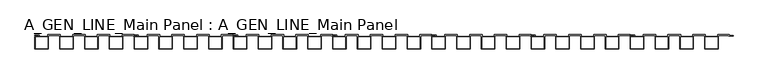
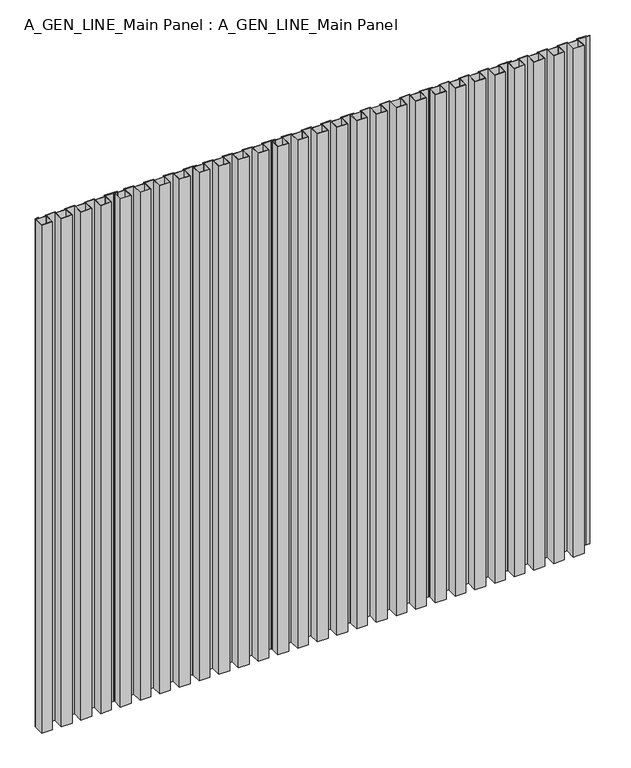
"""IFC4 building model written with IfcOpenShell, lengths in millimetres: proxy geometry, A_GEN_LINE_Main Panel : A_GEN_LINE_Main Panel."""

import ifcopenshell
import ifcopenshell.guid

model = None  # the IFC model being written
_history = None  # IfcOwnerHistory: only IFC2X3 demands one
_inside = {}  # id of a spatial element -> (the spatial element, [elements in it])
_under = {}  # id of a project, library or spatial element -> (it, [spatial elements below it])
_declared = {}  # id of a project -> (the project, [libraries it declares])
_typed = {}  # id of a type object -> (the type object, [elements of that type])
_made_of = {}  # id of a material, layer set ... -> (it, [elements and type objects made of it])


def new_model(schema):
    """Start an empty IFC model of exactly this schema.

    Asked for "IFC4X3", IfcOpenShell would pick the latest addendum, in which some entities
    have other attributes; the version numbers below select the first issue.
    IFC2X3 requires an IfcOwnerHistory on every rooted entity: one is made here for all.
    """
    global model, _history
    if schema == "IFC4X3":
        model = ifcopenshell.file(schema_version=(4, 3, 0, 0))
    else:
        model = ifcopenshell.file(schema=schema)
    _inside.clear()
    _under.clear()
    _declared.clear()
    _typed.clear()
    _made_of.clear()
    _history = None
    if model.schema == "IFC2X3":
        org = make("IfcOrganization", Name="unknown")
        user = make(
            "IfcPersonAndOrganization",
            ThePerson=make("IfcPerson", FamilyName="unknown"),
            TheOrganization=org,
        )
        app = make(
            "IfcApplication",
            ApplicationDeveloper=org,
            Version="unknown",
            ApplicationFullName="unknown",
            ApplicationIdentifier="unknown",
        )
        _history = make(
            "IfcOwnerHistory",
            OwningUser=user,
            OwningApplication=app,
            ChangeAction="ADDED",
            CreationDate=0,
        )
    return model


def make(cls, **values):
    """One entity of the class cls with the attributes given. An attribute that is None is left unset."""
    return model.create_entity(
        cls, **{name: value for name, value in values.items() if value is not None}
    )


def rooted(cls, **values):
    """An entity with a GlobalId (a new one), such as an element, a storey or a relation."""
    return make(cls, GlobalId=ifcopenshell.guid.new(), OwnerHistory=_history, **values)


def si_unit(unit_type, name, prefix=None):
    """IfcSIUnit, for example si_unit("LENGTHUNIT", "METRE", prefix="MILLI")."""
    return make("IfcSIUnit", UnitType=unit_type, Prefix=prefix, Name=name)


def assignment(units):
    """IfcUnitAssignment: the units of a project."""
    return None if units is None else make("IfcUnitAssignment", Units=units)


def point(xyz):
    """IfcCartesianPoint."""
    return None if xyz is None else make("IfcCartesianPoint", Coordinates=xyz)


def direction(xyz):
    """IfcDirection."""
    return None if xyz is None else make("IfcDirection", DirectionRatios=xyz)


def frame(location, z_axis=None, x_axis=None):
    """IfcAxis2Placement3D, a coordinate frame: its origin and axes. An axis left out is left unset."""
    return make(
        "IfcAxis2Placement3D",
        Location=point(location),
        Axis=direction(z_axis),
        RefDirection=direction(x_axis),
    )


def frame_2d(location, x_axis=None):
    """IfcAxis2Placement2D, a coordinate frame in the plane: its origin and x axis."""
    return make(
        "IfcAxis2Placement2D", Location=point(location), RefDirection=direction(x_axis)
    )


def origin():
    """The frame at (0, 0, 0) with its axes left unset."""
    return frame((0.0, 0.0, 0.0))


def origin_with_axes():
    """The frame at (0, 0, 0) with the z axis (0, 0, 1) and the x axis (1, 0, 0) written out."""
    return frame((0.0, 0.0, 0.0), z_axis=(0.0, 0.0, 1.0), x_axis=(1.0, 0.0, 0.0))


def place(relative_to, where):
    """IfcLocalPlacement: puts the frame where relative to a parent placement (None: the world)."""
    return make(
        "IfcLocalPlacement", PlacementRelTo=relative_to, RelativePlacement=where
    )


def context(
    kind, dimensions, precision=None, world=None, true_north=None, identifier=None
):
    """IfcGeometricRepresentationContext, for example the 3D "Model" context."""
    return make(
        "IfcGeometricRepresentationContext",
        ContextIdentifier=identifier,
        ContextType=kind,
        CoordinateSpaceDimension=dimensions,
        Precision=precision,
        WorldCoordinateSystem=world,
        TrueNorth=true_north,
    )


def project(units=None, contexts=None):
    """IfcProject with its units and contexts."""
    return rooted(
        "IfcProject",
        Name="project",
        RepresentationContexts=contexts,
        UnitsInContext=assignment(units),
    )


def spatial(cls, under=None, at=None, **own):
    """A site, building, storey or space (cls), placed at a placement, below another one or the project."""
    s = rooted(cls, ObjectPlacement=at, **own)
    if under is not None:
        _under.setdefault(under.id(), (under, []))[1].append(s)
    return s


def polyline(points):
    """IfcPolyline through the points."""
    return make("IfcPolyline", Points=[point(p) for p in points])


def circle_curve(where, radius):
    """IfcCircle in the frame where."""
    return make("IfcCircle", Position=where, Radius=radius)


def trimmed(basis, trim1, trim2, sense, master):
    """IfcTrimmedCurve: the piece of a basis curve between two trims."""
    return make(
        "IfcTrimmedCurve",
        BasisCurve=basis,
        Trim1=trim1,
        Trim2=trim2,
        SenseAgreement=sense,
        MasterRepresentation=master,
    )


def segment(curve, same_sense, transition):
    """IfcCompositeCurveSegment."""
    return make(
        "IfcCompositeCurveSegment",
        Transition=transition,
        SameSense=same_sense,
        ParentCurve=curve,
    )


def composite_curve(segments, self_intersect=None):
    """IfcCompositeCurve: segments joined end to end."""
    return make("IfcCompositeCurve", Segments=segments, SelfIntersect=self_intersect)


def outline(outer, holes=None, kind="AREA"):
    """IfcArbitraryClosedProfileDef: a profile drawn as a closed curve; with holes, ...WithVoids."""
    if holes is None:
        return make("IfcArbitraryClosedProfileDef", ProfileType=kind, OuterCurve=outer)
    return make(
        "IfcArbitraryProfileDefWithVoids",
        ProfileType=kind,
        OuterCurve=outer,
        InnerCurves=holes,
    )


def extrude(swept, where, along, depth):
    """IfcExtrudedAreaSolid: the profile swept, set in the frame where, extruded along a direction by depth."""
    return make(
        "IfcExtrudedAreaSolid",
        SweptArea=swept,
        Position=where,
        ExtrudedDirection=direction(along),
        Depth=depth,
    )


def shape(context_of_items, identifier, shape_type, items):
    """IfcShapeRepresentation: the items that make up one representation, for example the "Body"."""
    return make(
        "IfcShapeRepresentation",
        ContextOfItems=context_of_items,
        RepresentationIdentifier=identifier,
        RepresentationType=shape_type,
        Items=items,
    )


def source(mapping_origin, context_of_items, identifier, shape_type, items):
    """IfcRepresentationMap: a shape defined once, which mapped items show again and again."""
    return make(
        "IfcRepresentationMap",
        MappingOrigin=mapping_origin,
        MappedRepresentation=shape(context_of_items, identifier, shape_type, items),
    )


def transform(
    local_origin,
    x_axis=None,
    y_axis=None,
    z_axis=None,
    scale=None,
    scale2=None,
    scale3=None,
    uniform=True,
):
    """IfcCartesianTransformationOperator3D, or its non-uniform kind. x_axis, y_axis, z_axis: its Axis1, 2, 3."""
    if uniform:
        return make(
            "IfcCartesianTransformationOperator3D",
            Axis1=direction(x_axis),
            Axis2=direction(y_axis),
            LocalOrigin=point(local_origin),
            Scale=scale,
            Axis3=direction(z_axis),
        )
    return make(
        "IfcCartesianTransformationOperator3DnonUniform",
        Axis1=direction(x_axis),
        Axis2=direction(y_axis),
        LocalOrigin=point(local_origin),
        Scale=scale,
        Axis3=direction(z_axis),
        Scale2=scale2,
        Scale3=scale3,
    )


def mapped(mapping_source, mapping_target):
    """IfcMappedItem: shows the shape of a source again, moved by a transform."""
    return make(
        "IfcMappedItem", MappingSource=mapping_source, MappingTarget=mapping_target
    )


def made_of(thing, what):
    """Note that an element or type object is made of a material, layer set ...; save() writes the relation."""
    if what is not None:
        _made_of.setdefault(what.id(), (what, []))[1].append(thing)
    return thing


def element(
    cls,
    number,
    at=None,
    inside=None,
    cuts=None,
    type_object=None,
    material=None,
    context=None,
    identifier="Body",
    shape_type=None,
    held_by="IfcProductDefinitionShape",
    body=None,
    shapes=None,
    **own,
):
    """One element of the class cls, such as IfcWall. Its Tag is "e" and its number.

    at: its placement. inside: the storey or other place that contains it. cuts: it is an
    opening in that element (IfcRelVoidsElement). A single representation is given by context,
    identifier, shape_type and body (its items); several are given by shapes. held_by: the class
    of the entity that holds the representations. save() writes the other relations.
    """
    e = rooted(cls, Tag="e%d" % number, ObjectPlacement=at, **own)
    if body is not None:
        shapes = [shape(context, identifier, shape_type, body)]
    if shapes is not None:
        e.Representation = make(held_by, Representations=shapes)
    if inside is not None:
        _inside.setdefault(inside.id(), (inside, []))[1].append(e)
    if cuts is not None:
        rooted(
            "IfcRelVoidsElement", RelatingBuildingElement=cuts, RelatedOpeningElement=e
        )
    if type_object is not None:
        _typed.setdefault(type_object.id(), (type_object, []))[1].append(e)
    return made_of(e, material)


def aggregate(whole, parts):
    """IfcRelAggregates: a whole, such as a stair, and the parts it consists of."""
    return rooted("IfcRelAggregates", RelatingObject=whole, RelatedObjects=parts)


def save(model, path):
    """Write the relations noted so far, then the file.

    IfcRelAggregates (storeys below a building ...), IfcRelContainedInSpatialStructure (elements
    in a storey), IfcRelDefinesByType, IfcRelAssociatesMaterial and IfcRelDeclares: one each for
    every whole, place, type object, material and project.
    """
    for whole, parts in _under.values():
        aggregate(whole, parts)
    for where, things in _inside.values():
        rooted(
            "IfcRelContainedInSpatialStructure",
            RelatedElements=things,
            RelatingStructure=where,
        )
    for kind, things in _typed.values():
        rooted("IfcRelDefinesByType", RelatedObjects=things, RelatingType=kind)
    for what, things in _made_of.values():
        rooted("IfcRelAssociatesMaterial", RelatedObjects=things, RelatingMaterial=what)
    for by, libraries in _declared.values():
        rooted("IfcRelDeclares", RelatingContext=by, RelatedDefinitions=libraries)
    model.write(path)


def a_gen_line_main_panel_a_gen_line_main_panel_f6c80559(model_context):
    return source(origin(), model_context, "Body", "SweptSolid", [
        extrude(outline(composite_curve([segment(polyline([(1319.9924785, -32.2007666), (1319.9924785, -4.3989007)]), True, "CONTINUOUS"), segment(trimmed(circle_curve(frame_2d((1320.4913792, -4.3989007)), 0.4989007), [point((1319.9924785, -4.3989007))], [point((1320.4913792, -3.9))], False, "CARTESIAN"), True, "CONTINUOUS"), segment(polyline([(1320.4913792, -3.9), (1328.3818862, -3.9), (1328.3818862, -1.7), (1319.9623336, -1.7), (1319.9623336, -0.6), (1329.5818862, -0.6), (1329.5818862, -4.1), (1348.5924785, -4.1), (1348.5924785, 0.0), (1376.3894211, 0.0), (1376.3894211, -4.1), (1403.5894211, -4.1), (1403.5894211, 0.0), (1431.3863637, 0.0), (1431.3863637, -4.1), (1458.5863637, -4.1), (1458.5863637, 0.0), (1486.3833063, 0.0), (1486.3833063, -4.1), (1513.5833063, -4.1), (1513.5833063, 0.0), (1539.9560559, 0.0), (1539.9560559, -1.85), (1547.9535496, -1.85), (1547.9535496, -3.2), (1538.4377008, -3.2), (1538.4377008, -2.4), (1514.9833063, -2.4), (1514.9833063, -32.2007666), (1484.9833063, -32.2007666), (1484.9833063, -1.85), (1459.9863637, -1.85), (1459.9863637, -32.2007666), (1429.9411907, -32.2007666), (1429.9411907, -1.85), (1404.9894211, -1.85), (1404.9894211, -32.2007666), (1374.9894211, -32.2007666), (1374.9894211, -1.85), (1349.9924785, -1.85), (1349.9924785, -32.2007666), (1319.9924785, -32.2007666)]), True, "CONTINUOUS")], self_intersect=False), holes=[polyline([(1348.5924785, -5.1), (1321.3924785, -5.1), (1321.3924785, -30.8007666), (1348.5924785, -30.8007666), (1348.5924785, -5.1)]), polyline([(1376.3894211, -30.8007666), (1403.5894211, -30.8007666), (1403.5894211, -5.1), (1376.3894211, -5.1), (1376.3894211, -30.8007666)]), polyline([(1431.3863637, -30.8007666), (1458.5863637, -30.8007666), (1458.5863637, -5.1), (1431.3863637, -5.1), (1431.3863637, -30.8007666)]), polyline([(1486.3833063, -5.1), (1486.3833063, -30.8007666), (1513.5833063, -30.8007666), (1513.5833063, -5.1), (1486.3833063, -5.1)])]), origin_with_axes(), (0.0, 0.0, 1.0), 1500.0),
        extrude(outline(composite_curve([segment(polyline([(1099.9987562, -32.2007666), (1099.9987562, -4.3989007)]), True, "CONTINUOUS"), segment(trimmed(circle_curve(frame_2d((1100.4976569, -4.3989007)), 0.4989007), [point((1099.9987562, -4.3989007))], [point((1100.4976569, -3.9))], False, "CARTESIAN"), True, "CONTINUOUS"), segment(polyline([(1100.4976569, -3.9), (1108.388164, -3.9), (1108.388164, -1.7), (1099.9686113, -1.7), (1099.9686113, -0.6), (1109.588164, -0.6), (1109.588164, -4.1), (1128.5987562, -4.1), (1128.5987562, 0.0), (1156.3956988, 0.0), (1156.3956988, -4.1), (1183.5956988, -4.1), (1183.5956988, 0.0), (1211.3926414, 0.0), (1211.3926414, -4.1), (1238.5926414, -4.1), (1238.5926414, 0.0), (1266.3895841, 0.0), (1266.3895841, -4.1), (1293.5895841, -4.1), (1293.5895841, 0.0), (1319.9623336, 0.0), (1319.9623336, -1.85), (1327.9598273, -1.85), (1327.9598273, -3.2), (1318.4439785, -3.2), (1318.4439785, -2.4), (1294.9895841, -2.4), (1294.9895841, -32.2007666), (1264.9895841, -32.2007666), (1264.9895841, -1.85), (1239.9926414, -1.85), (1239.9926414, -32.2007666), (1209.9474684, -32.2007666), (1209.9474684, -1.85), (1184.9956988, -1.85), (1184.9956988, -32.2007666), (1154.9956988, -32.2007666), (1154.9956988, -1.85), (1129.9987562, -1.85), (1129.9987562, -32.2007666), (1099.9987562, -32.2007666)]), True, "CONTINUOUS")], self_intersect=False), holes=[polyline([(1128.5987562, -5.1), (1101.3987562, -5.1), (1101.3987562, -30.8007666), (1128.5987562, -30.8007666), (1128.5987562, -5.1)]), polyline([(1156.3956988, -30.8007666), (1183.5956988, -30.8007666), (1183.5956988, -5.1), (1156.3956988, -5.1), (1156.3956988, -30.8007666)]), polyline([(1211.3926414, -30.8007666), (1238.5926414, -30.8007666), (1238.5926414, -5.1), (1211.3926414, -5.1), (1211.3926414, -30.8007666)]), polyline([(1266.3895841, -5.1), (1266.3895841, -30.8007666), (1293.5895841, -30.8007666), (1293.5895841, -5.1), (1266.3895841, -5.1)])]), origin_with_axes(), (0.0, 0.0, 1.0), 1500.0),
        extrude(outline(composite_curve([segment(polyline([(880.0050339, -32.2007666), (880.0050339, -4.3989007)]), True, "CONTINUOUS"), segment(trimmed(circle_curve(frame_2d((880.5039347, -4.3989007)), 0.4989007), [point((880.0050339, -4.3989007))], [point((880.5039347, -3.9))], False, "CARTESIAN"), True, "CONTINUOUS"), segment(polyline([(880.5039347, -3.9), (888.3944417, -3.9), (888.3944417, -1.7), (879.9748891, -1.7), (879.9748891, -0.6), (889.5944417, -0.6), (889.5944417, -4.1), (908.6050339, -4.1), (908.6050339, 0.0), (936.4019766, 0.0), (936.4019766, -4.1), (963.6019766, -4.1), (963.6019766, 0.0), (991.3989192, 0.0), (991.3989192, -4.1), (1018.5989192, -4.1), (1018.5989192, 0.0), (1046.3958618, 0.0), (1046.3958618, -4.1), (1073.5958618, -4.1), (1073.5958618, 0.0), (1099.9686113, 0.0), (1099.9686113, -1.85), (1107.966105, -1.85), (1107.966105, -3.2), (1098.4502563, -3.2), (1098.4502563, -2.4), (1074.9958618, -2.4), (1074.9958618, -32.2007666), (1044.9958618, -32.2007666), (1044.9958618, -1.85), (1019.9989192, -1.85), (1019.9989192, -32.2007666), (989.9537462, -32.2007666), (989.9537462, -1.85), (965.0019766, -1.85), (965.0019766, -32.2007666), (935.0019766, -32.2007666), (935.0019766, -1.85), (910.0050339, -1.85), (910.0050339, -32.2007666), (880.0050339, -32.2007666)]), True, "CONTINUOUS")], self_intersect=False), holes=[polyline([(908.6050339, -5.1), (881.4050339, -5.1), (881.4050339, -30.8007666), (908.6050339, -30.8007666), (908.6050339, -5.1)]), polyline([(936.4019766, -30.8007666), (963.6019766, -30.8007666), (963.6019766, -5.1), (936.4019766, -5.1), (936.4019766, -30.8007666)]), polyline([(991.3989192, -30.8007666), (1018.5989192, -30.8007666), (1018.5989192, -5.1), (991.3989192, -5.1), (991.3989192, -30.8007666)]), polyline([(1046.3958618, -5.1), (1046.3958618, -30.8007666), (1073.5958618, -30.8007666), (1073.5958618, -5.1), (1046.3958618, -5.1)])]), origin_with_axes(), (0.0, 0.0, 1.0), 1500.0),
        extrude(outline(composite_curve([segment(polyline([(660.0113117, -32.2007666), (660.0113117, -4.3989007)]), True, "CONTINUOUS"), segment(trimmed(circle_curve(frame_2d((660.5102124, -4.3989007)), 0.4989007), [point((660.0113117, -4.3989007))], [point((660.5102124, -3.9))], False, "CARTESIAN"), True, "CONTINUOUS"), segment(polyline([(660.5102124, -3.9), (668.4007195, -3.9), (668.4007195, -1.7), (659.9811668, -1.7), (659.9811668, -0.6), (669.6007195, -0.6), (669.6007195, -4.1), (688.6113117, -4.1), (688.6113117, 0.0), (716.4082543, 0.0), (716.4082543, -4.1), (743.6082543, -4.1), (743.6082543, 0.0), (771.4051969, 0.0), (771.4051969, -4.1), (798.6051969, -4.1), (798.6051969, 0.0), (826.4021395, 0.0), (826.4021395, -4.1), (853.6021395, -4.1), (853.6021395, 0.0), (879.9748891, 0.0), (879.9748891, -1.85), (887.9723828, -1.85), (887.9723828, -3.2), (878.456534, -3.2), (878.456534, -2.4), (855.0021395, -2.4), (855.0021395, -32.2007666), (825.0021395, -32.2007666), (825.0021395, -1.85), (800.0051969, -1.85), (800.0051969, -32.2007666), (769.9600239, -32.2007666), (769.9600239, -1.85), (745.0082543, -1.85), (745.0082543, -32.2007666), (715.0082543, -32.2007666), (715.0082543, -1.85), (690.0113117, -1.85), (690.0113117, -32.2007666), (660.0113117, -32.2007666)]), True, "CONTINUOUS")], self_intersect=False), holes=[polyline([(688.6113117, -5.1), (661.4113117, -5.1), (661.4113117, -30.8007666), (688.6113117, -30.8007666), (688.6113117, -5.1)]), polyline([(716.4082543, -30.8007666), (743.6082543, -30.8007666), (743.6082543, -5.1), (716.4082543, -5.1), (716.4082543, -30.8007666)]), polyline([(771.4051969, -30.8007666), (798.6051969, -30.8007666), (798.6051969, -5.1), (771.4051969, -5.1), (771.4051969, -30.8007666)]), polyline([(826.4021395, -5.1), (826.4021395, -30.8007666), (853.6021395, -30.8007666), (853.6021395, -5.1), (826.4021395, -5.1)])]), origin_with_axes(), (0.0, 0.0, 1.0), 1500.0),
        extrude(outline(composite_curve([segment(polyline([(440.0175894, -32.2007666), (440.0175894, -4.3989007)]), True, "CONTINUOUS"), segment(trimmed(circle_curve(frame_2d((440.5164901, -4.3989007)), 0.4989007), [point((440.0175894, -4.3989007))], [point((440.5164901, -3.9))], False, "CARTESIAN"), True, "CONTINUOUS"), segment(polyline([(440.5164901, -3.9), (448.4069972, -3.9), (448.4069972, -1.7), (439.9874445, -1.7), (439.9874445, -0.6), (449.6069972, -0.6), (449.6069972, -4.1), (468.6175894, -4.1), (468.6175894, 0.0), (496.414532, 0.0), (496.414532, -4.1), (523.614532, -4.1), (523.614532, 0.0), (551.4114746, 0.0), (551.4114746, -4.1), (578.6114746, -4.1), (578.6114746, 0.0), (606.4084173, 0.0), (606.4084173, -4.1), (633.6084173, -4.1), (633.6084173, 0.0), (659.9811668, 0.0), (659.9811668, -1.85), (667.9786605, -1.85), (667.9786605, -3.2), (658.4628117, -3.2), (658.4628117, -2.4), (635.0084173, -2.4), (635.0084173, -32.2007666), (605.0084173, -32.2007666), (605.0084173, -1.85), (580.0114746, -1.85), (580.0114746, -32.2007666), (549.9663016, -32.2007666), (549.9663016, -1.85), (525.014532, -1.85), (525.014532, -32.2007666), (495.014532, -32.2007666), (495.014532, -1.85), (470.0175894, -1.85), (470.0175894, -32.2007666), (440.0175894, -32.2007666)]), True, "CONTINUOUS")], self_intersect=False), holes=[polyline([(468.6175894, -5.1), (441.4175894, -5.1), (441.4175894, -30.8007666), (468.6175894, -30.8007666), (468.6175894, -5.1)]), polyline([(496.414532, -30.8007666), (523.614532, -30.8007666), (523.614532, -5.1), (496.414532, -5.1), (496.414532, -30.8007666)]), polyline([(551.4114746, -30.8007666), (578.6114746, -30.8007666), (578.6114746, -5.1), (551.4114746, -5.1), (551.4114746, -30.8007666)]), polyline([(606.4084173, -5.1), (606.4084173, -30.8007666), (633.6084173, -30.8007666), (633.6084173, -5.1), (606.4084173, -5.1)])]), origin_with_axes(), (0.0, 0.0, 1.0), 1500.0),
        extrude(outline(composite_curve([segment(polyline([(220.0238671, -32.2007666), (220.0238671, -4.3989007)]), True, "CONTINUOUS"), segment(trimmed(circle_curve(frame_2d((220.5227679, -4.3989007)), 0.4989007), [point((220.0238671, -4.3989007))], [point((220.5227679, -3.9))], False, "CARTESIAN"), True, "CONTINUOUS"), segment(polyline([(220.5227679, -3.9), (228.4132749, -3.9), (228.4132749, -1.7), (219.9937223, -1.7), (219.9937223, -0.6), (229.6132749, -0.6), (229.6132749, -4.1), (248.6238671, -4.1), (248.6238671, 0.0), (276.4208098, 0.0), (276.4208098, -4.1), (303.6208098, -4.1), (303.6208098, 0.0), (331.4177524, 0.0), (331.4177524, -4.1), (358.6177524, -4.1), (358.6177524, 0.0), (386.414695, 0.0), (386.414695, -4.1), (413.614695, -4.1), (413.614695, 0.0), (439.9874445, 0.0), (439.9874445, -1.85), (447.9849382, -1.85), (447.9849382, -3.2), (438.4690895, -3.2), (438.4690895, -2.4), (415.014695, -2.4), (415.014695, -32.2007666), (385.014695, -32.2007666), (385.014695, -1.85), (360.0177524, -1.85), (360.0177524, -32.2007666), (329.9725794, -32.2007666), (329.9725794, -1.85), (305.0208098, -1.85), (305.0208098, -32.2007666), (275.0208098, -32.2007666), (275.0208098, -1.85), (250.0238671, -1.85), (250.0238671, -32.2007666), (220.0238671, -32.2007666)]), True, "CONTINUOUS")], self_intersect=False), holes=[polyline([(248.6238671, -5.1), (221.4238671, -5.1), (221.4238671, -30.8007666), (248.6238671, -30.8007666), (248.6238671, -5.1)]), polyline([(276.4208098, -30.8007666), (303.6208098, -30.8007666), (303.6208098, -5.1), (276.4208098, -5.1), (276.4208098, -30.8007666)]), polyline([(331.4177524, -30.8007666), (358.6177524, -30.8007666), (358.6177524, -5.1), (331.4177524, -5.1), (331.4177524, -30.8007666)]), polyline([(386.414695, -5.1), (386.414695, -30.8007666), (413.614695, -30.8007666), (413.614695, -5.1), (386.414695, -5.1)])]), origin_with_axes(), (0.0, 0.0, 1.0), 1500.0),
        extrude(outline(composite_curve([segment(polyline([(0.0301449, -32.2007666), (0.0301449, -4.3989007)]), True, "CONTINUOUS"), segment(trimmed(circle_curve(frame_2d((0.5290456, -4.3989007)), 0.4989007), [point((0.0301449, -4.3989007))], [point((0.5290456, -3.9))], False, "CARTESIAN"), True, "CONTINUOUS"), segment(polyline([(0.5290456, -3.9), (8.4195527, -3.9), (8.4195527, -1.7), (0.0, -1.7), (0.0, -0.6), (9.6195527, -0.6), (9.6195527, -4.1), (28.6301449, -4.1), (28.6301449, 0.0), (56.4270875, 0.0), (56.4270875, -4.1), (83.6270875, -4.1), (83.6270875, 0.0), (111.4240301, 0.0), (111.4240301, -4.1), (138.6240301, -4.1), (138.6240301, 0.0), (166.4209727, 0.0), (166.4209727, -4.1), (193.6209727, -4.1), (193.6209727, 0.0), (219.9937223, 0.0), (219.9937223, -1.85), (227.991216, -1.85), (227.991216, -3.2), (218.4753672, -3.2), (218.4753672, -2.4), (195.0209727, -2.4), (195.0209727, -32.2007666), (165.0209727, -32.2007666), (165.0209727, -1.85), (140.0240301, -1.85), (140.0240301, -32.2007666), (109.9788571, -32.2007666), (109.9788571, -1.85), (85.0270875, -1.85), (85.0270875, -32.2007666), (55.0270875, -32.2007666), (55.0270875, -1.85), (30.0301449, -1.85), (30.0301449, -32.2007666), (0.0301449, -32.2007666)]), True, "CONTINUOUS")], self_intersect=False), holes=[polyline([(28.6301449, -5.1), (1.4301449, -5.1), (1.4301449, -30.8007666), (28.6301449, -30.8007666), (28.6301449, -5.1)]), polyline([(56.4270875, -30.8007666), (83.6270875, -30.8007666), (83.6270875, -5.1), (56.4270875, -5.1), (56.4270875, -30.8007666)]), polyline([(111.4240301, -30.8007666), (138.6240301, -30.8007666), (138.6240301, -5.1), (111.4240301, -5.1), (111.4240301, -30.8007666)]), polyline([(166.4209727, -5.1), (166.4209727, -30.8007666), (193.6209727, -30.8007666), (193.6209727, -5.1), (166.4209727, -5.1)])]), origin_with_axes(), (0.0, 0.0, 1.0), 1500.0),
    ])


if __name__ == "__main__":
    model = new_model("IFC4")
    model_context = context("Model", 3, world=origin())
    ifc_project = project(units=[si_unit("LENGTHUNIT", "METRE", prefix="MILLI")], contexts=[model_context])
    site = spatial("IfcSite", under=ifc_project)
    building = spatial("IfcBuilding", under=site)
    placement = place(None, origin())
    a_gen_line_main_panel_a_gen_line_main_panel_shape = a_gen_line_main_panel_a_gen_line_main_panel_f6c80559(model_context)
    element("IfcBuildingElementProxy", 1, Name="A_GEN_LINE_Main Panel : A_GEN_LINE_Main Panel", ObjectType="A_GEN_LINE_Main Panel : A_GEN_LINE_Main Panel", at=placement, inside=building, context=model_context, shape_type="MappedRepresentation", body=[
        mapped(a_gen_line_main_panel_a_gen_line_main_panel_shape, transform((0.0, 0.0, 0.0), x_axis=(1.0, 0.0, 0.0), y_axis=(0.0, 1.0, 0.0), z_axis=(0.0, 0.0, 1.0))),
    ])
    save(model, "model.ifc")
